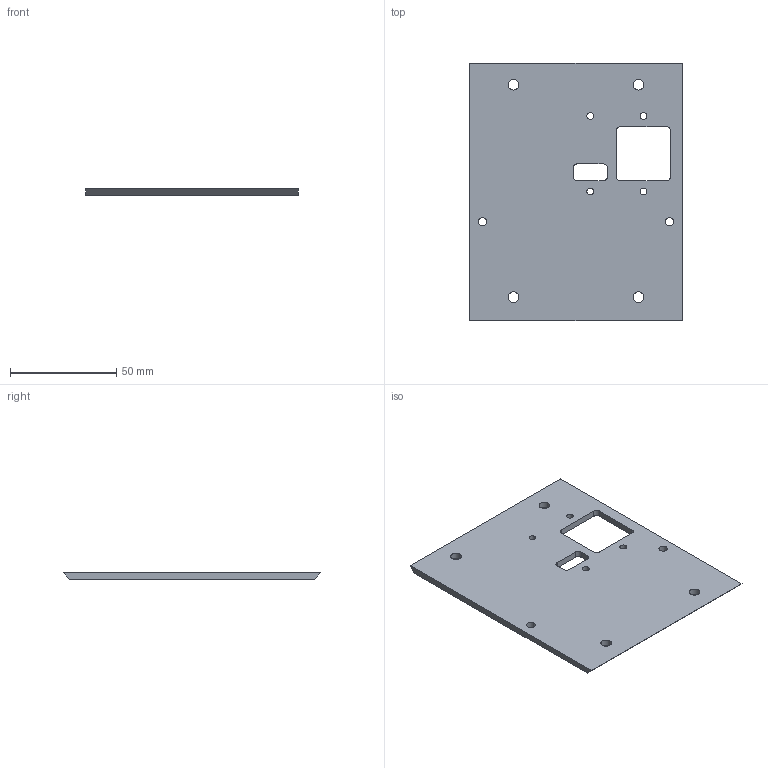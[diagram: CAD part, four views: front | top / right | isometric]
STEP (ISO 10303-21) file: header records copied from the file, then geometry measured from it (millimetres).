
FILE_DESCRIPTION(/* description */ ('STEP AP242','CAx-IF Rec.Pracs.---Representation and Presentation of Product Manufacturing Information (PMI)---4.0---2014-10-13','CAx-IF Rec.Pracs.---3D Tessellated Geometry---0.4---2014-09-14','2;1'),/* implementation_level */ '2;1');
FILE_NAME(/* name */ '05 - T plate - T plate',/* time_stamp */ '2024-12-03T19:58:33Z',/* author */ (''),/* organization */ (''),/* preprocessor_version */ 'ST-DEVELOPER v20',/* originating_system */ 'ONSHAPE BY PTC INC, 1.190',/* authorisation */ ' ');
FILE_SCHEMA (('AP242_MANAGED_MODEL_BASED_3D_ENGINEERING_MIM_LF { 1 0 10303 442 1 1 4 }'));
Length unit declared in the file: metre
Products named in the file (1): T plate
Bounding box: 100 x 121 x 3 mm (x, y, z)
Volume: 32678.3 mm3; surface area: 24156 mm2
Topology: 1 solids, 1 shells, 32 faces, 100 edges, 70 vertices
Faces by surface type: cylinder 18, plane 14
Full cylindrical faces by diameter (mm): 3.2 x4, 4 x2, 5 x4
Entity records: 1070 total; most frequent: DIRECTION 182, CARTESIAN_POINT 173, ORIENTED_EDGE 160, EDGE_CURVE 80, AXIS2_PLACEMENT_3D 69, EDGE_LOOP 66, FACE_BOUND 66, VERTEX_POINT 60
